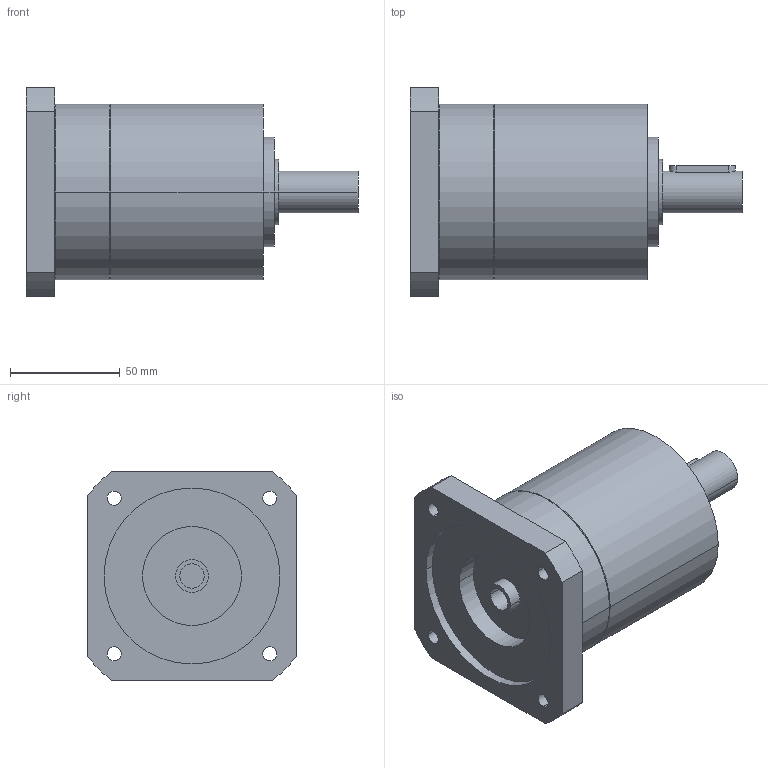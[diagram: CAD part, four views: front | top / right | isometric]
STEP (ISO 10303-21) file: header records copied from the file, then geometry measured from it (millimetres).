
FILE_DESCRIPTION(('CoCreate Modeling STEP Export'),'2;1');
FILE_NAME('GPR100_ig-3-4-5-6_19_B14_11_P06.stp','2014-08-26T10:01:37',(''),(''),'CoCreate Modeling STEP processor for AP214 (Solid Model)','CoCreate Modeling 16.00C 25-Feb-2009 (C) Parametric Technology GmbH','');
FILE_SCHEMA(('AUTOMOTIVE_DESIGN { 1 0 10303 214 1 1 1 1 }'));
Length unit declared in the file: millimetre
Products named in the file (2): GPR100_ig-3-4-5-6_19_B14_11_P06
Assembly tree (1 placements, depth 2):
  GPR100_ig-3-4-5-6_19_B14_11_P06
    GPR100_ig-3-4-5-6_19_B14_11_P06
Bounding box: 151 x 95 x 95 mm (x, y, z)
Volume: 574579.2 mm3; surface area: 55294.5 mm2
Topology: 1 solids, 1 shells, 70 faces, 189 edges, 133 vertices
Faces by surface type: cylinder 42, plane 22, cone 6
Entity records: 1944 total; most frequent: ORIENTED_EDGE 374, CARTESIAN_POINT 361, DIRECTION 262, EDGE_CURVE 187, VERTEX_POINT 133, AXIS2_PLACEMENT_3D 98, EDGE_LOOP 92, FACE_OUTER_BOUND 70
